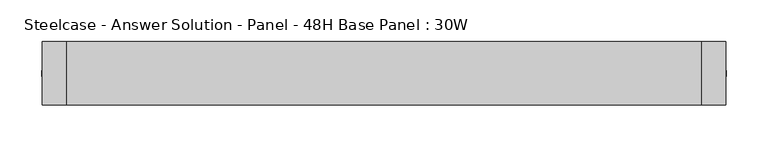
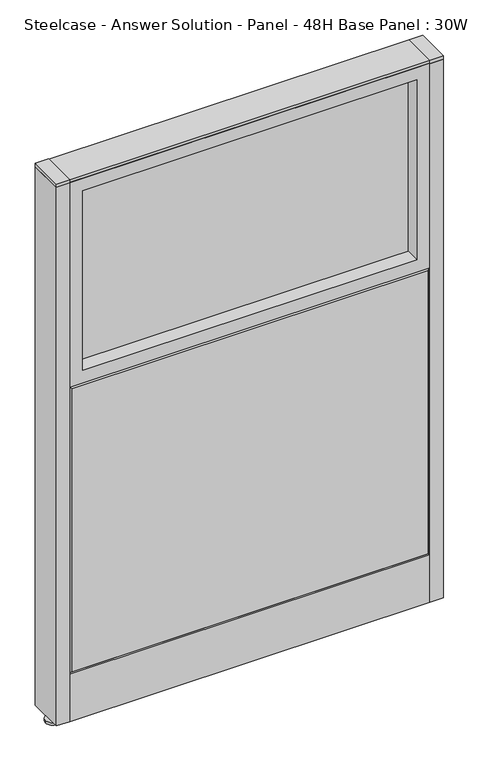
"""IFC4 building model written with IfcOpenShell, lengths in millimetres: furniture geometry, Steelcase - Answer Solution - Panel - 48H Base Panel : 30W."""

from ifc_helpers import new_model, si_unit, point, frame, frame_2d, origin, place, context, project, spatial, polyline, circle_curve, trimmed, segment, composite_curve, outline, extrude, faceted_brep, source, transform, mapped, element, save


def steelcase_answer_solution_panel_48h_base_panel_30w_f6a5f755(model_context):
    return source(origin(), model_context, "Body", "SolidModel", [
        extrude(outline(composite_curve([segment(trimmed(circle_curve(frame_2d((395.224, 0.0320214)), 5.08), [point((400.304, 0.0320214))], [point((390.144, 0.0320214))], False, "CARTESIAN"), True, "CONTINUOUS"), segment(trimmed(circle_curve(frame_2d((395.224, 0.0320214)), 5.08), [point((390.144, 0.0320214))], [point((400.304, 0.0320214))], False, "CARTESIAN"), True, "CONTINUOUS")], self_intersect=False)), frame((0.0, 0.0, 5.0799671), z_axis=(0.0, 0.0, 1.0), x_axis=(1.0, 0.0, 0.0)), (0.0, 0.0, 1.0), 10.414),
        extrude(outline(composite_curve([segment(trimmed(circle_curve(frame_2d((395.224, 0.0320214)), 15.24), [point((410.464, 0.0320214))], [point((379.984, 0.0320214))], False, "CARTESIAN"), True, "CONTINUOUS"), segment(trimmed(circle_curve(frame_2d((395.224, 0.0320214)), 15.24), [point((379.984, 0.0320214))], [point((410.464, 0.0320214))], False, "CARTESIAN"), True, "CONTINUOUS")], self_intersect=False)), frame((0.0, 0.0, -3.29e-05), z_axis=(0.0, 0.0, 1.0), x_axis=(1.0, 0.0, 0.0)), (0.0, 0.0, 1.0), 5.08),
        extrude(outline(polyline([(409.575, 38.1320408), (409.575, -38.0679592), (381.0, -38.0679592), (381.0, 38.1320408), (409.575, 38.1320408)])), frame((0.0, 0.0, 1218.2348), z_axis=(0.0, 0.0, 1.0), x_axis=(1.0, 0.0, 0.0)), (0.0, 0.0, 1.0), 7.3151671),
        extrude(outline(polyline([(409.575, 38.1320408), (409.575, -38.0679592), (381.0, -38.0679592), (381.0, 38.1320408), (409.575, 38.1320408)])), frame((0.0, 0.0, 15.4939671), z_axis=(0.0, 0.0, 1.0), x_axis=(1.0, 0.0, 0.0)), (0.0, 0.0, 1.0), 1202.7408329),
        extrude(outline(composite_curve([segment(trimmed(circle_curve(frame_2d((-395.224, 0.0320214)), 5.08), [point((-400.304, 0.0320214))], [point((-390.144, 0.0320214))], False, "CARTESIAN"), True, "CONTINUOUS"), segment(trimmed(circle_curve(frame_2d((-395.224, 0.0320214)), 5.08), [point((-390.144, 0.0320214))], [point((-400.304, 0.0320214))], False, "CARTESIAN"), True, "CONTINUOUS")], self_intersect=False)), frame((0.0, 0.0, 5.0799671), z_axis=(0.0, 0.0, 1.0), x_axis=(1.0, 0.0, 0.0)), (0.0, 0.0, 1.0), 10.414),
        extrude(outline(composite_curve([segment(trimmed(circle_curve(frame_2d((-395.224, 0.0320214)), 15.24), [point((-410.464, 0.0320214))], [point((-379.984, 0.0320214))], False, "CARTESIAN"), True, "CONTINUOUS"), segment(trimmed(circle_curve(frame_2d((-395.224, 0.0320214)), 15.24), [point((-379.984, 0.0320214))], [point((-410.464, 0.0320214))], False, "CARTESIAN"), True, "CONTINUOUS")], self_intersect=False)), frame((0.0, 0.0, -3.29e-05), z_axis=(0.0, 0.0, 1.0), x_axis=(1.0, 0.0, 0.0)), (0.0, 0.0, 1.0), 5.08),
        extrude(outline(polyline([(-409.575, 38.1320408), (-381.0, 38.1320408), (-381.0, -38.0679592), (-409.575, -38.0679592), (-409.575, 38.1320408)])), frame((0.0, 0.0, 1218.2348), z_axis=(0.0, 0.0, 1.0), x_axis=(1.0, 0.0, 0.0)), (0.0, 0.0, 1.0), 7.3151671),
        extrude(outline(polyline([(-409.575, 38.1320408), (-381.0, 38.1320408), (-381.0, -38.0679592), (-409.575, -38.0679592), (-409.575, 38.1320408)])), frame((0.0, 0.0, 15.4939671), z_axis=(0.0, 0.0, 1.0), x_axis=(1.0, 0.0, 0.0)), (0.0, 0.0, 1.0), 1202.7408329),
        extrude(outline(polyline([(-353.06, 6.346049), (353.06, 6.346049), (353.06, -6.353951), (-353.06, -6.353951), (-353.06, 6.346049)])), frame((0.0, 0.0, 789.94), z_axis=(0.0, 0.0, 1.0), x_axis=(1.0, 0.0, 0.0)), (0.0, 0.0, 1.0), 401.32),
        extrude(outline(polyline([(1219.2, -381.0), (762.0, -381.0), (762.0, 381.0), (1219.2, 381.0), (1219.2, -381.0)]), holes=[polyline([(1191.26, -353.06), (1191.26, 353.06), (789.94, 353.06), (789.94, -353.06), (1191.26, -353.06)])]), frame((0.0, -38.103951, 0.0), z_axis=(0.0, 1.0, 0.0), x_axis=(0.0, 0.0, 1.0)), (0.0, 0.0, 1.0), 76.2),
        faceted_brep([(-376.174, 38.1635011, 757.174), (376.174, 38.1635011, 757.174), (376.174, 38.1635011, 125.476), (-376.174, 38.1635011, 125.476), (-381.0, 33.3375011, 762.0), (-381.0, 33.3375011, 120.65), (381.0, 33.3375011, 120.65), (381.0, 33.3375011, 762.0)], [[[0, 1, 2, 3]], [[4, 5, 6, 7]], [[4, 7, 1, 0]], [[7, 6, 2, 1]], [[6, 5, 3, 2]], [[5, 4, 0, 3]]]),
        extrude(outline(polyline([(353.06, -6.346049), (-353.06, -6.346049), (-353.06, 6.353951), (353.06, 6.353951), (353.06, -6.346049)])), frame((0.0, 0.0, 789.94), z_axis=(0.0, 0.0, 1.0), x_axis=(1.0, 0.0, 0.0)), (0.0, 0.0, 1.0), 401.32),
        extrude(outline(polyline([(1219.2, 381.0), (1219.2, -381.0), (762.0, -381.0), (762.0, 381.0), (1219.2, 381.0)]), holes=[polyline([(1191.26, 353.06), (789.94, 353.06), (789.94, -353.06), (1191.26, -353.06), (1191.26, 353.06)])]), frame((0.0, -38.096049, 0.0), z_axis=(0.0, 1.0, 0.0), x_axis=(0.0, 0.0, 1.0)), (0.0, 0.0, 1.0), 76.2),
        faceted_brep([(376.174, -38.1635011, 757.174), (-376.174, -38.1635011, 757.174), (-376.174, -38.1635011, 125.476), (376.174, -38.1635011, 125.476), (381.0, -33.3375011, 762.0), (381.0, -33.3375011, 120.65), (-381.0, -33.3375011, 120.65), (-381.0, -33.3375011, 762.0)], [[[0, 1, 2, 3]], [[4, 5, 6, 7]], [[4, 7, 1, 0]], [[7, 6, 2, 1]], [[6, 5, 3, 2]], [[5, 4, 0, 3]]]),
        extrude(outline(polyline([(381.0, 38.1000194), (381.0, -38.1000194), (-381.0, -38.1000194), (-381.0, 38.1000194), (381.0, 38.1000194)])), frame((0.0, 0.0, 1219.2), z_axis=(0.0, 0.0, 1.0), x_axis=(1.0, 0.0, 0.0)), (0.0, 0.0, 1.0), 6.35),
        extrude(outline(polyline([(25.4000011, 119.8575157), (25.4000011, 120.65), (38.1000194, 120.65), (38.1000194, 15.494), (37.3075215, 15.494), (37.3075215, 119.8575157), (25.4000011, 119.8575157)])), frame((-381.0, 0.0, 0.0), z_axis=(1.0, 0.0, 0.0), x_axis=(0.0, 1.0, 0.0)), (0.0, 0.0, 1.0), 762.0),
        extrude(outline(polyline([(-25.4000011, 119.8575157), (-37.3075215, 119.8575157), (-37.3075215, 15.494), (-38.1000194, 15.494), (-38.1000194, 120.65), (-25.4000011, 120.65), (-25.4000011, 119.8575157)])), frame((-381.0, 0.0, 0.0), z_axis=(1.0, 0.0, 0.0), x_axis=(0.0, 1.0, 0.0)), (0.0, 0.0, 1.0), 762.0),
    ])


if __name__ == "__main__":
    model = new_model("IFC4")
    model_context = context("Model", 3, world=origin())
    ifc_project = project(units=[si_unit("LENGTHUNIT", "METRE", prefix="MILLI")], contexts=[model_context])
    site = spatial("IfcSite", under=ifc_project)
    building = spatial("IfcBuilding", under=site)
    placement = place(None, origin())
    steelcase_answer_solution_panel_48h_base_panel_30w_shape = steelcase_answer_solution_panel_48h_base_panel_30w_f6a5f755(model_context)
    element("IfcFurniture", 1, ObjectType="Steelcase - Answer Solution - Panel - 48H Base Panel : 30W", at=placement, inside=building, context=model_context, shape_type="MappedRepresentation", body=[
        mapped(steelcase_answer_solution_panel_48h_base_panel_30w_shape, transform((0.0, 0.0, 0.0), x_axis=(1.0, 0.0, 0.0), y_axis=(0.0, 1.0, 0.0), z_axis=(0.0, 0.0, 1.0))),
    ])
    save(model, "model.ifc")
